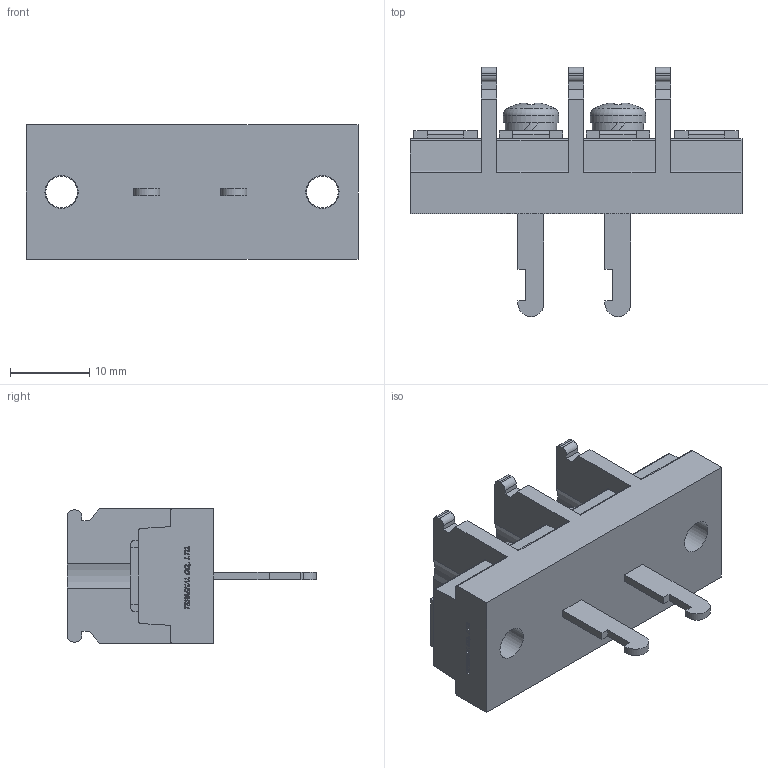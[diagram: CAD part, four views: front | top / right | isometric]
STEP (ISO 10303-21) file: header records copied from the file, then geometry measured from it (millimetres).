
FILE_DESCRIPTION(/* description */ ('Alibre Inc.'),/* implementation_level */ '2;1');
FILE_NAME(/* name */ 'export0',/* time_stamp */ '2015-10-19T19:56:45+09:00',/* author */ (''),/* organization */ (''),/* preprocessor_version */ 'ST-DEVELOPER v14',/* originating_system */ 'Alibre',/* authorisation */ '');
FILE_SCHEMA (('CONFIG_CONTROL_DESIGN'));
Length unit declared in the file: centimetre
Products named in the file (1): ID_1
Bounding box: 42 x 31.5 x 17 mm (x, y, z)
Volume: 7195.7 mm3; surface area: 4411.6 mm2
Topology: 1 solids, 1 shells, 602 faces, 1646 edges, 1096 vertices
Faces by surface type: plane 430, bspline 104, cylinder 54, cone 8, torus 4, sphere 2
Full cylindrical faces by diameter (mm): 4 x4, 4.2 x2, 6.5 x2, 7 x2
Entity records: 18484 total; most frequent: CARTESIAN_POINT 4293, ORIENTED_EDGE 3252, DIRECTION 2113, EDGE_CURVE 1626, VECTOR 1223, LINE 1223, VERTEX_POINT 1088, EDGE_LOOP 672
